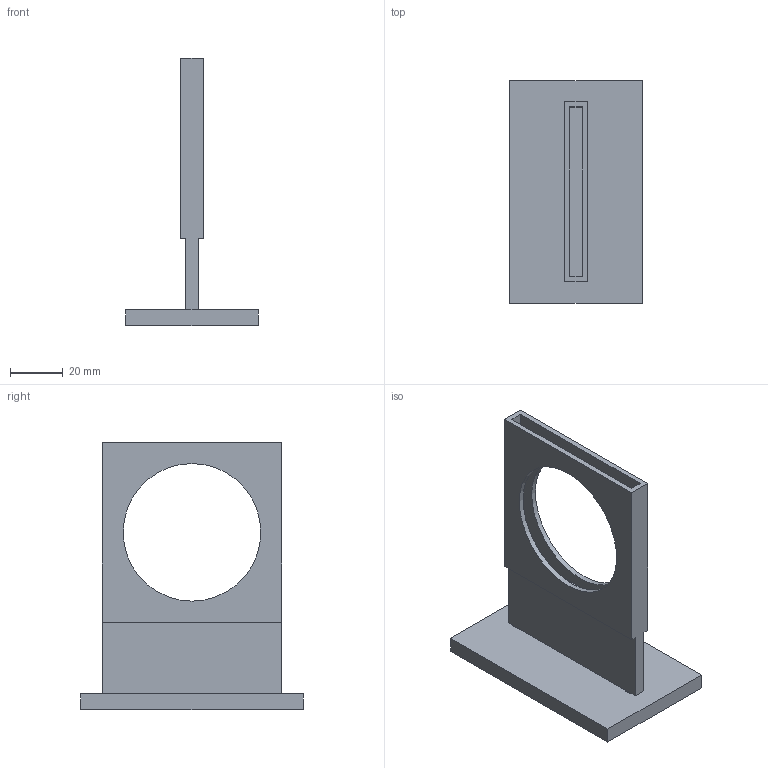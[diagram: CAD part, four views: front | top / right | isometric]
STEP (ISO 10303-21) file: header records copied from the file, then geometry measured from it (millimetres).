
FILE_DESCRIPTION(('Open CASCADE Model'),'2;1');
FILE_NAME('Open CASCADE Shape Model','2026-10-08T14:17:54',('Author'),( 'Open CASCADE'),'Open CASCADE STEP processor 7.9','Open CASCADE 7.9' ,'Unknown');
FILE_SCHEMA(('AUTOMOTIVE_DESIGN { 1 0 10303 214 1 1 1 1 }'));
Length unit declared in the file: millimetre
Products named in the file (1): Open CASCADE STEP translator 7.9 11
Bounding box: 50 x 84 x 101 mm (x, y, z)
Volume: 45780 mm3; surface area: 26031.8 mm2
Topology: 1 solids, 1 shells, 26 faces, 76 edges, 48 vertices
Faces by surface type: plane 22, cylinder 4
Full cylindrical faces by diameter (mm): 5.6 x2, 52 x2
Entity records: 1912 total; most frequent: CARTESIAN_POINT 391, DIRECTION 280, LINE 192, VECTOR 192, ORIENTED_EDGE 152, PCURVE 152, DEFINITIONAL_REPRESENTATION 152, EDGE_CURVE 76
